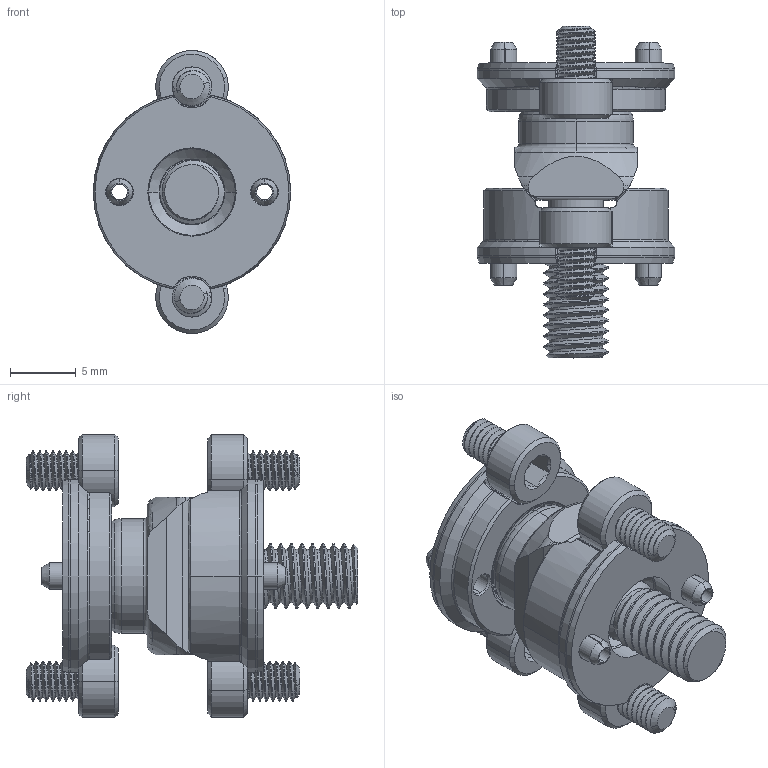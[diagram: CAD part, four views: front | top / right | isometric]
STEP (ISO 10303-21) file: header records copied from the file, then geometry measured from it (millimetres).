
FILE_DESCRIPTION (( 'STEP AP214' ), '1' );
FILE_NAME ('SPH10-STK-FR-B(N) Blind Fixed Retainer Stack (noPlates).20260923.STEP', '2026-09-23T21:31:54', ( '' ), ( '' ), 'SwSTEP 2.0', 'SolidWorks 2024', '' );
FILE_SCHEMA (( 'AUTOMOTIVE_DESIGN' ));
Length unit declared in the file: millimetre
Products named in the file (11): SPH10-STK-FR-B(N) Blind Fixed Retainer Stack (noPlates).20260923; SPH10h-RR Retainer Ring MCM_9433K234 .188x.127x.031 302 Stainless Steel Corrosion-Resistant Extension Spring with Loop Ends_Pried Open; SPH10c-BC Cone Block_Grinding; SPH10c-SP Spherolinder_Lapping; SPH10h-PC Slotted Spring Pin MCM_91610A200 M2x4.0 18-8 STAINLESS STEEL SLOTTED SPRING PIN_Closed; SPH10h-SI Installation Screw MCM_91292A109 M3x4.0 18-8 Stainless Steel Socket Head Screw_91292A109; SPH10a-BTM-FR_Blind-noPlate; SPH10c-BV Vee Block_grinding; SPH10g-GEOMETRY; SPH10a-TOP_Blind-noPlate; SPH10c-RF Fixed Retainer_-B Blind
Assembly tree (15 placements, depth 3):
  SPH10-STK-FR-B(N) Blind Fixed Retainer Stack (noPlates).20260923
    SPH10a-BTM-FR_Blind-noPlate
      SPH10c-BV Vee Block_grinding
      SPH10c-SP Spherolinder_Lapping
      SPH10c-RF Fixed Retainer_-B Blind
      SPH10h-RR Retainer Ring MCM_9433K234 .188x.127x.031 302 Stainless Steel Corrosion-Resistant Extension Spring with Loop Ends_Pried Open
      SPH10h-SI Installation Screw MCM_91292A109 M3x4.0 18-8 Stainless Steel Socket Head Screw_91292A109  x2
      SPH10h-PC Slotted Spring Pin MCM_91610A200 M2x4.0 18-8 STAINLESS STEEL SLOTTED SPRING PIN_Closed  x2
    SPH10a-TOP_Blind-noPlate
      SPH10c-BC Cone Block_Grinding
      SPH10h-PC Slotted Spring Pin MCM_91610A200 M2x4.0 18-8 STAINLESS STEEL SLOTTED SPRING PIN_Closed  x2
      SPH10h-SI Installation Screw MCM_91292A109 M3x4.0 18-8 Stainless Steel Socket Head Screw_91292A109  x2
  SPH10g-GEOMETRY
Bounding box: 15 x 25.2 x 21.5 mm (x, y, z)
Volume: 2117.7 mm3; surface area: 2965.3 mm2
Topology: 13 solids, 13 shells, 601 faces, 1503 edges, 941 vertices
Faces by surface type: cylinder 273, cone 147, plane 100, bspline 44, torus 33, sphere 4
Entity records: 15269 total; most frequent: CARTESIAN_POINT 6363, ORIENTED_EDGE 1920, DIRECTION 1722, EDGE_CURVE 960, AXIS2_PLACEMENT_3D 724, VERTEX_POINT 599, EDGE_LOOP 403, ADVANCED_FACE 382
